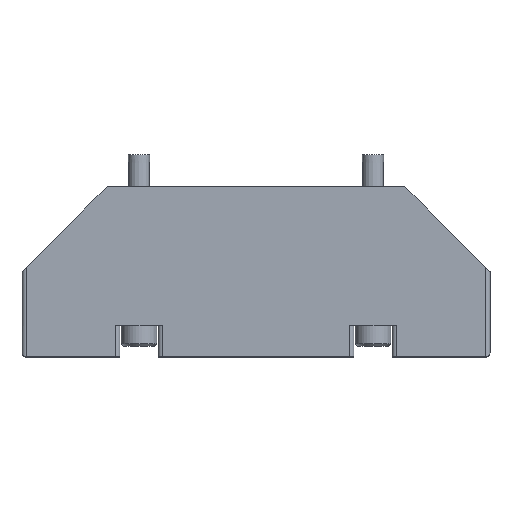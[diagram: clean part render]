
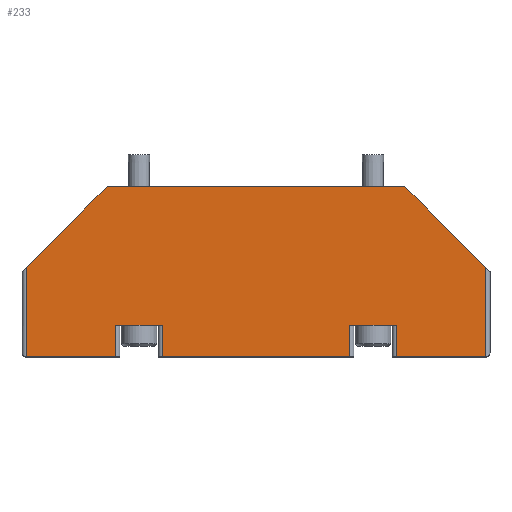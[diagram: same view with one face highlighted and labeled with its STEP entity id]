
A CAD part, top view. The second image highlights one B-rep face of the part: STEP entity #233.
In plain terms, the highlighted planar face has unit normal (0, 0, 1).
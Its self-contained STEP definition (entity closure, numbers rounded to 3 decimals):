
#233=ADVANCED_FACE('',(#541),#542,.F.);
#541=FACE_OUTER_BOUND('',#990,.T.);
#542=PLANE('',#991);
#990=EDGE_LOOP('',(#1499,#1500,#1501,#1502,#1503,#1504,#1505,#1506,#1507,#1508,#1509,#1510,#1511,#1512));
#991=AXIS2_PLACEMENT_3D('',#1513,#1514,#1515);
#1499=ORIENTED_EDGE('',*,*,#2413,.T.);
#1500=ORIENTED_EDGE('',*,*,#2414,.T.);
#1501=ORIENTED_EDGE('',*,*,#2415,.F.);
#1502=ORIENTED_EDGE('',*,*,#2416,.T.);
#1503=ORIENTED_EDGE('',*,*,#2385,.T.);
#1504=ORIENTED_EDGE('',*,*,#2417,.F.);
#1505=ORIENTED_EDGE('',*,*,#2381,.T.);
#1506=ORIENTED_EDGE('',*,*,#2418,.T.);
#1507=ORIENTED_EDGE('',*,*,#2419,.T.);
#1508=ORIENTED_EDGE('',*,*,#2420,.F.);
#1509=ORIENTED_EDGE('',*,*,#2421,.T.);
#1510=ORIENTED_EDGE('',*,*,#2422,.T.);
#1511=ORIENTED_EDGE('',*,*,#2423,.T.);
#1512=ORIENTED_EDGE('',*,*,#2424,.F.);
#1513=CARTESIAN_POINT('',(55.0,-40.0,19.5));
#1514=DIRECTION('',(0.0,0.0,-1.0));
#1515=DIRECTION('',(0.0,-1.0,0.0));
#2381=EDGE_CURVE('',#2776,#2773,#2777,.T.);
#2385=EDGE_CURVE('',#2782,#2783,#2784,.T.);
#2413=EDGE_CURVE('',#2830,#2831,#2832,.T.);
#2414=EDGE_CURVE('',#2831,#2833,#2834,.T.);
#2415=EDGE_CURVE('',#2835,#2833,#2836,.T.);
#2416=EDGE_CURVE('',#2835,#2782,#2837,.T.);
#2417=EDGE_CURVE('',#2776,#2783,#2838,.T.);
#2418=EDGE_CURVE('',#2773,#2839,#2840,.T.);
#2419=EDGE_CURVE('',#2839,#2841,#2842,.T.);
#2420=EDGE_CURVE('',#2843,#2841,#2844,.T.);
#2421=EDGE_CURVE('',#2843,#2845,#2846,.T.);
#2422=EDGE_CURVE('',#2845,#2847,#2848,.T.);
#2423=EDGE_CURVE('',#2847,#2849,#2850,.T.);
#2424=EDGE_CURVE('',#2830,#2849,#2851,.T.);
#2773=VERTEX_POINT('',#3460);
#2776=VERTEX_POINT('',#3463);
#2777=LINE('',#3464,#3465);
#2782=VERTEX_POINT('',#3471);
#2783=VERTEX_POINT('',#3472);
#2784=LINE('',#3473,#3474);
#2830=VERTEX_POINT('',#3535);
#2831=VERTEX_POINT('',#3536);
#2832=LINE('',#3537,#3538);
#2833=VERTEX_POINT('',#3539);
#2834=LINE('',#3540,#3541);
#2835=VERTEX_POINT('',#3542);
#2836=LINE('',#3543,#3544);
#2837=LINE('',#3545,#3546);
#2838=LINE('',#3547,#3548);
#2839=VERTEX_POINT('',#3549);
#2840=LINE('',#3550,#3551);
#2841=VERTEX_POINT('',#3552);
#2842=LINE('',#3553,#3554);
#2843=VERTEX_POINT('',#3555);
#2844=LINE('',#3556,#3557);
#2845=VERTEX_POINT('',#3558);
#2846=LINE('',#3559,#3560);
#2847=VERTEX_POINT('',#3561);
#2848=LINE('',#3562,#3563);
#2849=VERTEX_POINT('',#3564);
#2850=LINE('',#3565,#3566);
#2851=LINE('',#3567,#3568);
#3460=CARTESIAN_POINT('',(-33.0,-32.5,19.5));
#3463=CARTESIAN_POINT('',(-33.0,-40.0,19.5));
#3464=CARTESIAN_POINT('',(-33.0,-32.5,19.5));
#3465=VECTOR('',#4260,1.0);
#3471=CARTESIAN_POINT('',(-54.0,-19.0,19.5));
#3472=CARTESIAN_POINT('',(-54.0,-40.0,19.5));
#3473=CARTESIAN_POINT('',(-54.0,-40.0,19.5));
#3474=VECTOR('',#4265,1.0);
#3535=CARTESIAN_POINT('',(54.0,-40.0,19.5));
#3536=CARTESIAN_POINT('',(54.0,-19.0,19.5));
#3537=CARTESIAN_POINT('',(54.0,-40.0,19.5));
#3538=VECTOR('',#4299,1.0);
#3539=CARTESIAN_POINT('',(35.0,0.0,19.5));
#3540=CARTESIAN_POINT('',(55.0,-20.0,19.5));
#3541=VECTOR('',#4300,1.0);
#3542=CARTESIAN_POINT('',(-35.0,0.0,19.5));
#3543=CARTESIAN_POINT('',(-55.0,0.0,19.5));
#3544=VECTOR('',#4301,1.0);
#3545=CARTESIAN_POINT('',(-35.0,0.0,19.5));
#3546=VECTOR('',#4302,1.0);
#3547=CARTESIAN_POINT('',(55.0,-40.0,19.5));
#3548=VECTOR('',#4303,1.0);
#3549=CARTESIAN_POINT('',(-22.0,-32.5,19.5));
#3550=CARTESIAN_POINT('',(-32.0,-32.5,19.5));
#3551=VECTOR('',#4304,1.0);
#3552=CARTESIAN_POINT('',(-22.0,-40.0,19.5));
#3553=CARTESIAN_POINT('',(-22.0,-40.0,19.5));
#3554=VECTOR('',#4305,1.0);
#3555=CARTESIAN_POINT('',(22.0,-40.0,19.5));
#3556=CARTESIAN_POINT('',(55.0,-40.0,19.5));
#3557=VECTOR('',#4306,1.0);
#3558=CARTESIAN_POINT('',(22.0,-32.5,19.5));
#3559=CARTESIAN_POINT('',(22.0,-32.5,19.5));
#3560=VECTOR('',#4307,1.0);
#3561=CARTESIAN_POINT('',(33.0,-32.5,19.5));
#3562=CARTESIAN_POINT('',(23.0,-32.5,19.5));
#3563=VECTOR('',#4308,1.0);
#3564=CARTESIAN_POINT('',(33.0,-40.0,19.5));
#3565=CARTESIAN_POINT('',(33.0,-40.0,19.5));
#3566=VECTOR('',#4309,1.0);
#3567=CARTESIAN_POINT('',(55.0,-40.0,19.5));
#3568=VECTOR('',#4310,1.0);
#4260=DIRECTION('',(0.0,1.0,0.0));
#4265=DIRECTION('',(0.0,-1.0,0.0));
#4299=DIRECTION('',(0.0,1.0,0.0));
#4300=DIRECTION('',(-0.707,0.707,0.0));
#4301=DIRECTION('',(1.0,0.0,0.0));
#4302=DIRECTION('',(-0.707,-0.707,0.0));
#4303=DIRECTION('',(-1.0,0.0,0.0));
#4304=DIRECTION('',(1.0,0.0,0.0));
#4305=DIRECTION('',(0.0,-1.0,0.0));
#4306=DIRECTION('',(-1.0,0.0,0.0));
#4307=DIRECTION('',(0.0,1.0,0.0));
#4308=DIRECTION('',(1.0,0.0,0.0));
#4309=DIRECTION('',(0.0,-1.0,0.0));
#4310=DIRECTION('',(-1.0,0.0,0.0));
